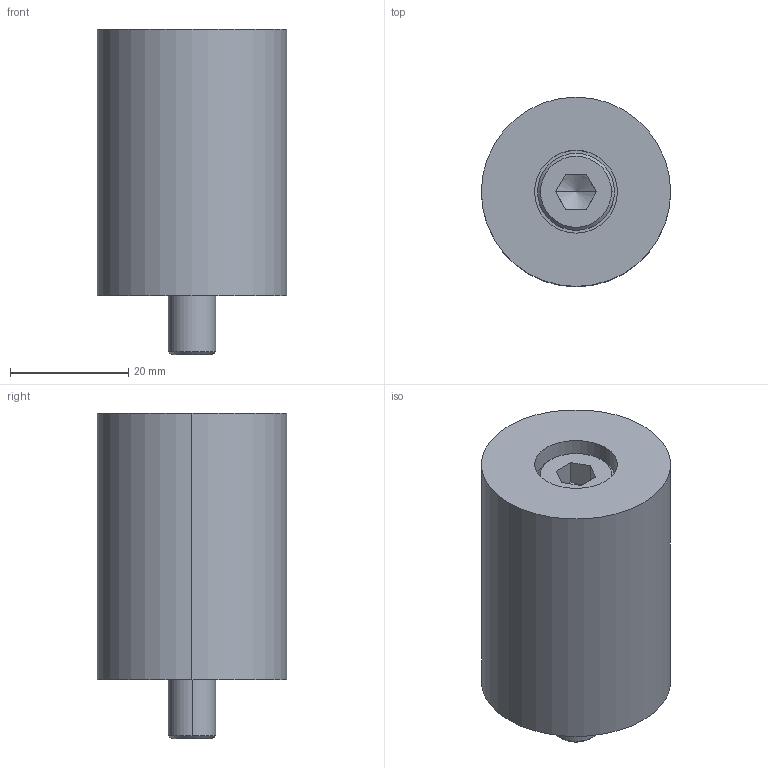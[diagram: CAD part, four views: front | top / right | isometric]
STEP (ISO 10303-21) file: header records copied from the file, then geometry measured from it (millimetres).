
FILE_DESCRIPTION (( 'STEP AP203' ), '1' );
FILE_NAME ('TPD32-45-1.STEP', '2024-06-05T22:33:02', ( '' ), ( '' ), 'SwSTEP 2.0', 'SolidWorks 2017', '' );
FILE_SCHEMA (( 'CONFIG_CONTROL_DESIGN' ));
Length unit declared in the file: millimetre
Products named in the file (3): TPD32-45-1; TPD32-45-1.sldasm-Part-1; TPD32-45-1.sldasm-Part-2
Assembly tree (2 placements, depth 2):
  TPD32-45-1
    TPD32-45-1.sldasm-Part-1
    TPD32-45-1.sldasm-Part-2
Bounding box: 32 x 32 x 55 mm (x, y, z)
Volume: 35831.4 mm3; surface area: 9188.7 mm2
Topology: 2 solids, 2 shells, 29 faces, 60 edges, 38 vertices
Faces by surface type: plane 13, cylinder 10, cone 6
Entity records: 1075 total; most frequent: DIRECTION 148, CARTESIAN_POINT 144, ORIENTED_EDGE 120, AXIS2_PLACEMENT_3D 60, EDGE_CURVE 60, VERTEX_POINT 38, EDGE_LOOP 34, FACE_OUTER_BOUND 29
